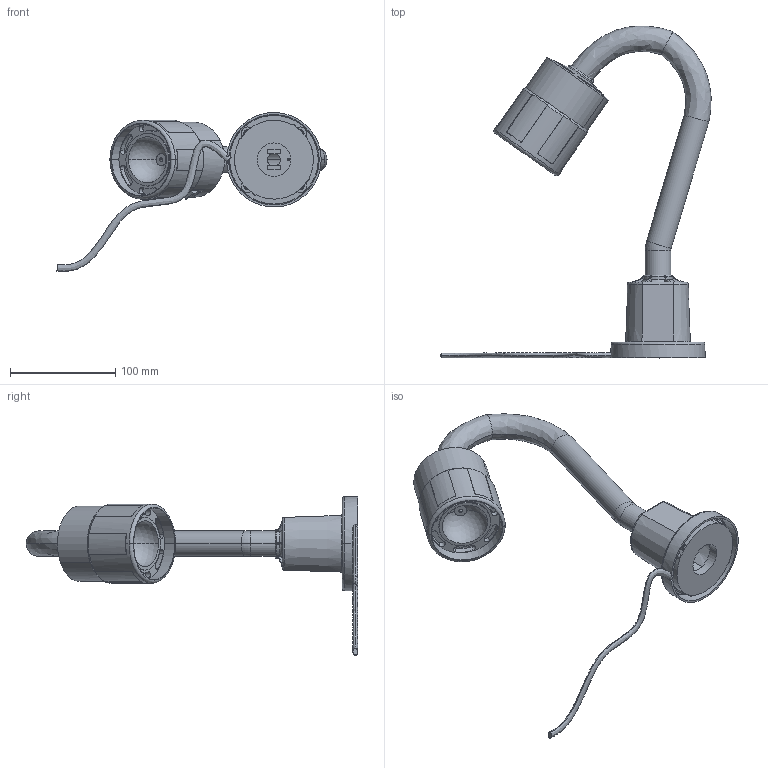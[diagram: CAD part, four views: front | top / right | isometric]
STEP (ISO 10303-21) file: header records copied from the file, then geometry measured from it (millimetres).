
FILE_DESCRIPTION((''),'2;1');
FILE_NAME('THL07-1TM','2016-09-26T',('ABS'),(''),'PRO/ENGINEER BY PARAMETRIC TECHNOLOGY CORPORATION, 2012360','PRO/ENGINEER BY PARAMETRIC TECHNOLOGY CORPORATION, 2012360','');
FILE_SCHEMA(('CONFIG_CONTROL_DESIGN'));
Length unit declared in the file: inch
Products named in the file (1): THL07-1TM
Bounding box: 257.11 x 315.89 x 151.36 mm (x, y, z)
Volume: 425513.8 mm3; surface area: 151878.7 mm2
Topology: 1 solids, 11 shells, 599 faces, 1775 edges, 1195 vertices
Faces by surface type: cylinder 262, plane 213, torus 52, bspline 50, cone 16, sphere 6
Entity records: 24662 total; most frequent: CARTESIAN_POINT 8811, ORIENTED_EDGE 3540, DIRECTION 3136, EDGE_CURVE 1770, AXIS2_PLACEMENT_3D 1260, VERTEX_POINT 1195, CIRCLE 711, EDGE_LOOP 667
